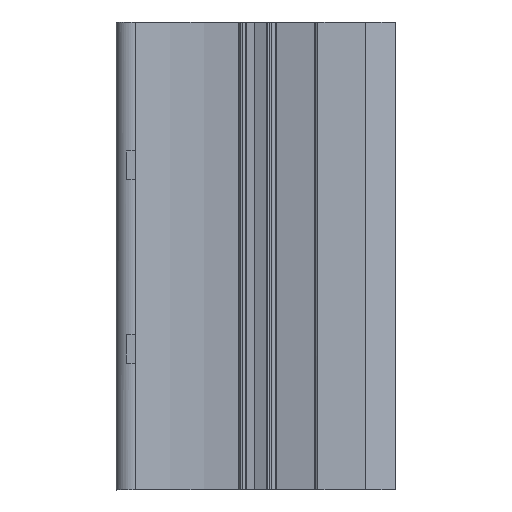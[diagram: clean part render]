
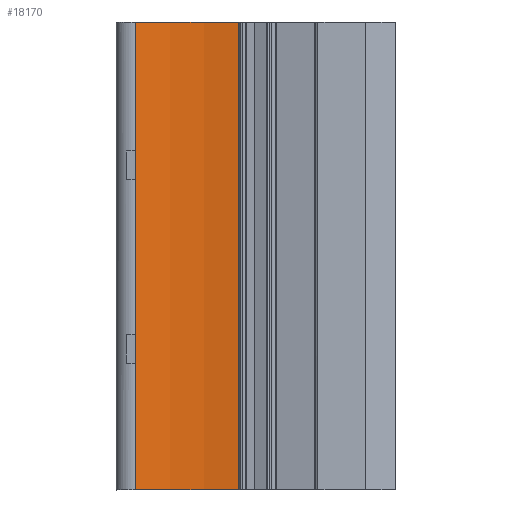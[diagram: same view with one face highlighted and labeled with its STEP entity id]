
A CAD part, left-side view. The second image highlights one B-rep face of the part: STEP entity #18170.
In plain terms, the highlighted cylindrical face has radius 30.7 mm (diameter 61.4 mm), a partial arc.
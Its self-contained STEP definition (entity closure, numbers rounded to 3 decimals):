
#2360=CARTESIAN_POINT('',(2.056,-39.429,
-46.453));
#2370=VERTEX_POINT('',#2360);
#2400=CARTESIAN_POINT('',(-28.245,-44.366,
-46.453));
#2410=DIRECTION('',(0.,0.,1.));
#2420=DIRECTION('',(-0.017,-1.,
0.));
#2430=AXIS2_PLACEMENT_3D('',#2400,#2410,#2420);
#2440=ELLIPSE('',#2430,30.7,30.7);
#2450=CARTESIAN_POINT('',(1.203,-53.044,
-46.453));
#2460=VERTEX_POINT('',#2450);
#2470=EDGE_CURVE('',#2460,#2370,#2440,.T.);
#10740=CARTESIAN_POINT('',(1.203,-53.044,
15.147));
#10750=VERTEX_POINT('',#10740);
#10780=CARTESIAN_POINT('',(-28.245,-44.366,
15.147));
#10790=DIRECTION('',(0.,0.,-1.));
#10800=DIRECTION('',(0.,1.,0.));
#10810=AXIS2_PLACEMENT_3D('',#10780,#10790,#10800);
#10820=CIRCLE('',#10810,30.7);
#10830=CARTESIAN_POINT('',(2.056,-39.429,
15.147));
#10840=VERTEX_POINT('',#10830);
#10850=EDGE_CURVE('',#10840,#10750,#10820,.T.);
#17960=CARTESIAN_POINT('',(-28.245,-44.366,
-15.653));
#17970=DIRECTION('',(0.,0.,1.));
#17980=DIRECTION('',(0.,1.,0.));
#17990=AXIS2_PLACEMENT_3D('',#17960,#17970,#17980);
#18000=CYLINDRICAL_SURFACE('',#17990,30.7);
#18010=ORIENTED_EDGE('',*,*,#10850,.F.);
#18020=CARTESIAN_POINT('',(1.203,-53.044,
-0.353));
#18030=DIRECTION('',(0.,0.,1.));
#18040=VECTOR('',#18030,1.);
#18050=LINE('',#18020,#18040);
#18060=EDGE_CURVE('',#2460,#10750,#18050,.T.);
#18070=ORIENTED_EDGE('',*,*,#18060,.T.);
#18080=ORIENTED_EDGE('',*,*,#2470,.F.);
#18090=CARTESIAN_POINT('',(2.056,-39.429,
-15.653));
#18100=DIRECTION('',(0.,0.,-1.));
#18110=VECTOR('',#18100,1.);
#18120=LINE('',#18090,#18110);
#18130=EDGE_CURVE('',#10840,#2370,#18120,.T.);
#18140=ORIENTED_EDGE('',*,*,#18130,.T.);
#18150=EDGE_LOOP('',(#18140,#18080,#18070,#18010));
#18160=FACE_OUTER_BOUND('',#18150,.T.);
#18170=ADVANCED_FACE('',(#18160),#18000,.F.);
